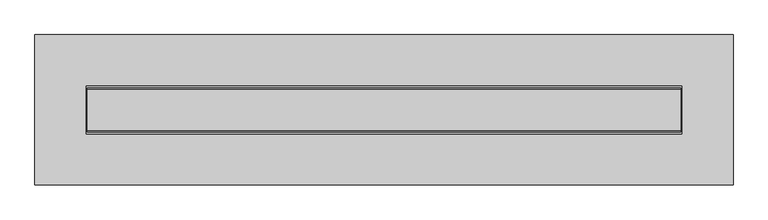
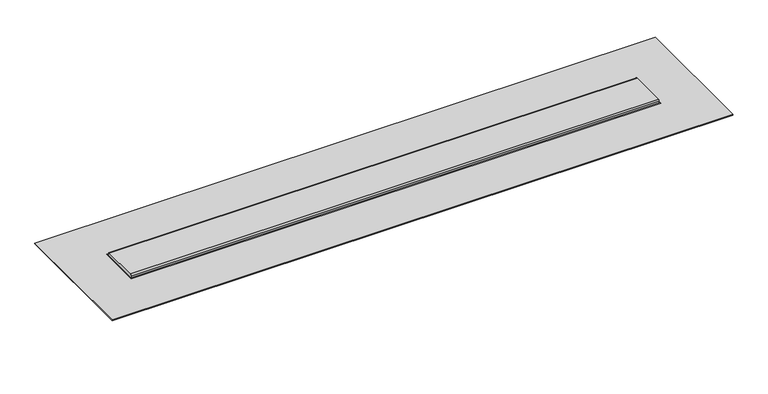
"""IFC4 building model written with IfcOpenShell, lengths in millimetres: sanitary terminal geometry, NLRS_PF_52_UN_Multi TAF in_uitloop_Easydrain : Multi TAF zijuitloop hoog 50mm, zij-ingang 40mm."""

from ifc_helpers import new_model, si_unit, point, frame, frame_2d, origin, place, context, project, spatial, polyline, circle_curve, trimmed, segment, composite_curve, outline, extrude, faceted_brep, source, transform, mapped, element, save
from ifc_brep_helpers import plane_surface, cylinder_surface, revolved_surface, advanced_brep


def sanitary_terminal_7cc5d28f(model_context):
    return source(origin(), model_context, "Body", "SolidModel", [
        advanced_brep(
        [(895.5, 0.0, -67.0), (889.5, 0.0, -67.0), (892.5, 0.0, -67.0), (895.5, 0.0, -89.5), (889.5, 0.0, -89.5), (907.5, 0.0, -97.0), (877.5, 0.0, -97.0), (892.5, 0.0, -97.0)],
        [
            (0, 1, circle_curve(frame((892.5, 0.0, -67.0), z_axis=(0.0, 0.0, 1.0), x_axis=(-1.0, 0.0, 0.0)), 3.0)),
            (1, 2),
            (2, 0),
            (1, 0, circle_curve(frame((892.5, 0.0, -67.0), z_axis=(0.0, 0.0, 1.0), x_axis=(-1.0, 0.0, 0.0)), 3.0)),
            (3, 4, circle_curve(frame((892.5, 0.0, -89.5), z_axis=(0.0, 0.0, 1.0), x_axis=(-1.0, 0.0, 0.0)), 3.0)),
            (4, 1),
            (0, 3),
            (4, 3, circle_curve(frame((892.5, 0.0, -89.5), z_axis=(0.0, 0.0, 1.0), x_axis=(-1.0, 0.0, 0.0)), 3.0)),
            (5, 6, circle_curve(frame((892.5, 0.0, -97.0), z_axis=(0.0, 0.0, 1.0), x_axis=(-1.0, 0.0, 0.0)), 15.0)),
            (6, 4),
            (3, 5),
            (6, 5, circle_curve(frame((892.5, 0.0, -97.0), z_axis=(0.0, 0.0, 1.0), x_axis=(-1.0, 0.0, 0.0)), 15.0)),
            (7, 6),
            (5, 7),
        ],
        [
            plane_surface(frame((892.5, 0.0, -67.0), z_axis=(0.0, 0.0, 1.0), x_axis=(-1.0, 0.0, 0.0))),
            cylinder_surface(frame((892.5, 0.0, -105.1782032), z_axis=(0.0, 0.0, -1.0), x_axis=(-1.0, 0.0, 0.0)), 3.0),
            revolved_surface(polyline([(889.5, 0.0, -89.5), (877.5, 0.0, -97.0)]), (892.5, 0.0, -105.1782032), (0.0, 0.0, -1.0)),
            plane_surface(frame((892.5, 0.0, -97.0), z_axis=(0.0, 0.0, -1.0), x_axis=(-1.0, 0.0, 0.0))),
        ],
        [
            (0, [[1, 2, 3]]),
            (0, [[4, -3, -2]]),
            (1, [[5, 6, -1, 7]]),
            (1, [[8, -7, -4, -6]]),
            (2, [[9, 10, -5, 11]]),
            (2, [[12, -11, -8, -10]]),
            (3, [[13, -9, 14]]),
            (3, [[-14, -12, -13]]),
        ],
    ),
        faceted_brep([(882.5, 10.0, -67.0), (902.5, 10.0, -67.0), (902.5, -10.0, -67.0), (882.5, -10.0, -67.0), (877.5, 15.0, -27.0), (877.5, -15.0, -27.0), (907.5, -15.0, -27.0), (907.5, 15.0, -27.0)], [[[0, 1, 2, 3]], [[4, 5, 6, 7]], [[5, 4, 0, 3]], [[6, 5, 3, 2]], [[7, 6, 2, 1]], [[4, 7, 1, 0]]]),
        advanced_brep(
        [(-189.5, 0.0, -67.0), (-195.5, 0.0, -67.0), (-192.5, 0.0, -67.0), (-189.5, 0.0, -89.5), (-195.5, 0.0, -89.5), (-177.5, 0.0, -97.0), (-207.5, 0.0, -97.0), (-192.5, 0.0, -97.0)],
        [
            (0, 1, circle_curve(frame((-192.5, 0.0, -67.0), z_axis=(0.0, 0.0, 1.0), x_axis=(-1.0, 0.0, 0.0)), 3.0)),
            (1, 2),
            (2, 0),
            (1, 0, circle_curve(frame((-192.5, 0.0, -67.0), z_axis=(0.0, 0.0, 1.0), x_axis=(-1.0, 0.0, 0.0)), 3.0)),
            (3, 4, circle_curve(frame((-192.5, 0.0, -89.5), z_axis=(0.0, 0.0, 1.0), x_axis=(-1.0, 0.0, 0.0)), 3.0)),
            (4, 1),
            (0, 3),
            (4, 3, circle_curve(frame((-192.5, 0.0, -89.5), z_axis=(0.0, 0.0, 1.0), x_axis=(-1.0, 0.0, 0.0)), 3.0)),
            (5, 6, circle_curve(frame((-192.5, 0.0, -97.0), z_axis=(0.0, 0.0, 1.0), x_axis=(-1.0, 0.0, 0.0)), 15.0)),
            (6, 4),
            (3, 5),
            (6, 5, circle_curve(frame((-192.5, 0.0, -97.0), z_axis=(0.0, 0.0, 1.0), x_axis=(-1.0, 0.0, 0.0)), 15.0)),
            (7, 6),
            (5, 7),
        ],
        [
            plane_surface(frame((-192.5, 0.0, -67.0), z_axis=(0.0, 0.0, 1.0), x_axis=(-1.0, 0.0, 0.0))),
            cylinder_surface(frame((-192.5, 0.0, -105.1782032), z_axis=(0.0, 0.0, -1.0), x_axis=(-1.0, 0.0, 0.0)), 3.0),
            revolved_surface(polyline([(-195.5, 0.0, -89.5), (-207.5, 0.0, -97.0)]), (-192.5, 0.0, -105.1782032), (0.0, 0.0, -1.0)),
            plane_surface(frame((-192.5, 0.0, -97.0), z_axis=(0.0, 0.0, -1.0), x_axis=(-1.0, 0.0, 0.0))),
        ],
        [
            (0, [[1, 2, 3]]),
            (0, [[4, -3, -2]]),
            (1, [[5, 6, -1, 7]]),
            (1, [[8, -7, -4, -6]]),
            (2, [[9, 10, -5, 11]]),
            (2, [[12, -11, -8, -10]]),
            (3, [[13, -9, 14]]),
            (3, [[-14, -12, -13]]),
        ],
    ),
        faceted_brep([(-202.5, 10.0, -67.0), (-182.5, 10.0, -67.0), (-182.5, -10.0, -67.0), (-202.5, -10.0, -67.0), (-207.5, 15.0, -27.0), (-207.5, -15.0, -27.0), (-177.5, -15.0, -27.0), (-177.5, 15.0, -27.0)], [[[0, 1, 2, 3]], [[4, 5, 6, 7]], [[5, 4, 0, 3]], [[6, 5, 3, 2]], [[7, 6, 2, 1]], [[4, 7, 1, 0]]]),
        extrude(outline(composite_curve([segment(polyline([(-40.0, 0.0), (40.0, 0.0)]), True, "CONTINUOUS"), segment(trimmed(circle_curve(frame_2d((40.0, -3.0)), 3.0), [point((40.0, 0.0))], [point((43.0, -3.0))], False, "CARTESIAN"), True, "CONTINUOUS"), segment(polyline([(43.0, -3.0), (43.0, -7.0), (-43.0, -7.0), (-43.0, -3.0)]), True, "CONTINUOUS"), segment(trimmed(circle_curve(frame_2d((-40.0, -3.0)), 3.0), [point((-43.0, -3.0))], [point((-40.0, 0.0))], False, "CARTESIAN"), True, "CONTINUOUS")], self_intersect=False)), frame((-230.5, 0.0, 0.0), z_axis=(1.0, 0.0, 0.0), x_axis=(0.0, 1.0, 0.0)), (0.0, 0.0, 1.0), 1161.0),
        extrude(outline(polyline([(1032.5, 147.0), (1032.5, -147.0), (-332.5, -147.0), (-332.5, 147.0), (1032.5, 147.0)]), holes=[polyline([(932.5, 47.0), (-232.5, 47.0), (-232.5, -47.0), (932.5, -47.0), (932.5, 47.0)])]), frame((0.0, 0.0, -8.0), z_axis=(0.0, 0.0, 1.0), x_axis=(1.0, 0.0, 0.0)), (0.0, 0.0, 1.0), 2.0),
        faceted_brep([(932.5, 47.0, -27.0), (-232.5, 47.0, -27.0), (-232.5, 47.0, -9.0), (932.5, 47.0, -9.0), (-232.5, -47.0, -27.0), (932.5, -47.0, -27.0), (932.5, -47.0, -9.0), (-232.5, -47.0, -9.0), (950.0, 64.5, -7.0), (-250.0, 64.5, -7.0), (-250.0, -81.5, -7.0), (950.0, -81.5, -7.0), (950.0, 64.5, -9.0), (950.0, -81.5, -9.0), (-250.0, -81.5, -9.0), (-250.0, 64.5, -9.0)], [[[0, 1, 2, 3]], [[4, 5, 6, 7]], [[1, 0, 5, 4]], [[5, 0, 3, 6]], [[8, 9, 10, 11]], [[1, 4, 7, 2]], [[12, 13, 14, 15], [3, 2, 7, 6]], [[9, 8, 12, 15]], [[10, 9, 15, 14]], [[11, 10, 14, 13]], [[8, 11, 13, 12]]]),
    ])


if __name__ == "__main__":
    model = new_model("IFC4")
    model_context = context("Model", 3, world=origin())
    ifc_project = project(units=[si_unit("LENGTHUNIT", "METRE", prefix="MILLI")], contexts=[model_context])
    site = spatial("IfcSite", under=ifc_project)
    building = spatial("IfcBuilding", under=site)
    placement = place(None, origin())
    sanitary_terminal_shape = sanitary_terminal_7cc5d28f(model_context)
    element("IfcSanitaryTerminal", 1, ObjectType="NLRS_PF_52_UN_Multi TAF in_uitloop_Easydrain : Multi TAF zijuitloop hoog 50mm, zij-ingang 40mm", at=placement, inside=building, context=model_context, shape_type="MappedRepresentation", body=[
        mapped(sanitary_terminal_shape, transform((0.0, 0.0, 0.0), x_axis=(1.0, 0.0, 0.0), y_axis=(0.0, 1.0, 0.0), z_axis=(0.0, 0.0, 1.0))),
    ])
    save(model, "model.ifc")
